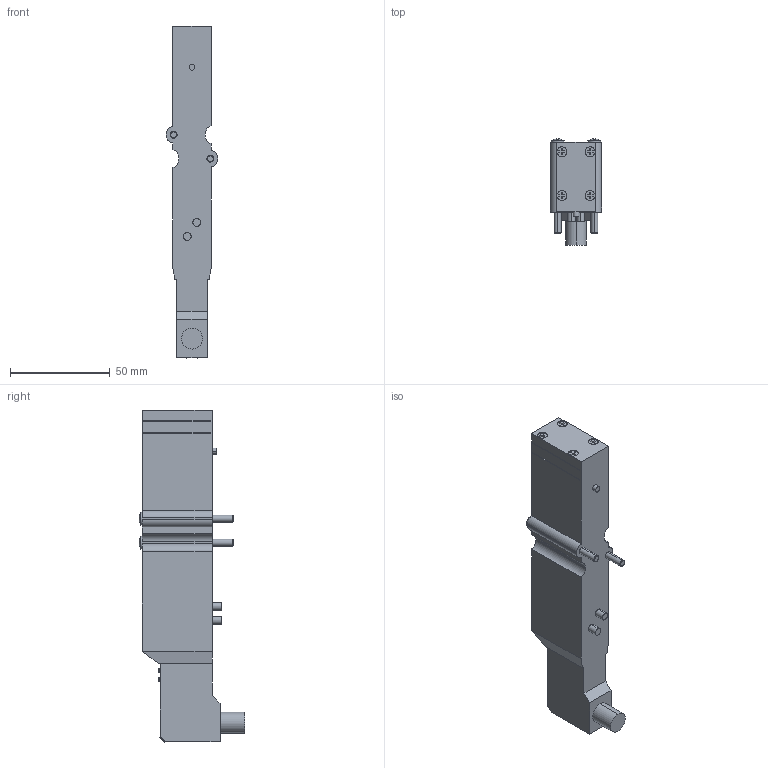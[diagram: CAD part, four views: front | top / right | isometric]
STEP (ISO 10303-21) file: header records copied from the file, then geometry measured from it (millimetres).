
FILE_DESCRIPTION((''),'2;1');
FILE_NAME('0820056301','2025-02-07T15:19:40',('GND7HC'),(''),'CREO PARAMETRIC BY PTC INC, 2023092','CREO PARAMETRIC BY PTC INC, 2023092','');
FILE_SCHEMA(('CONFIG_CONTROL_DESIGN','SHAPE_APPEARANCE_LAYERS_GROUPS'));
Length unit declared in the file: millimetre
Products named in the file (1): 0820056301
Bounding box: 25.7 x 53.17 x 166.53 mm (x, y, z)
Volume: 103393.3 mm3; surface area: 20528.2 mm2
Topology: 1 solids, 1 shells, 330 faces, 900 edges, 590 vertices
Faces by surface type: plane 244, cylinder 70, bspline 8, cone 4, sphere 4
Entity records: 16863 total; most frequent: CARTESIAN_POINT 2698, ORIENTED_EDGE 1800, DIRECTION 1666, PRESENTATION_STYLE_ASSIGNMENT 1150, STYLED_ITEM 901, CURVE_STYLE 900, EDGE_CURVE 900, VECTOR 694
